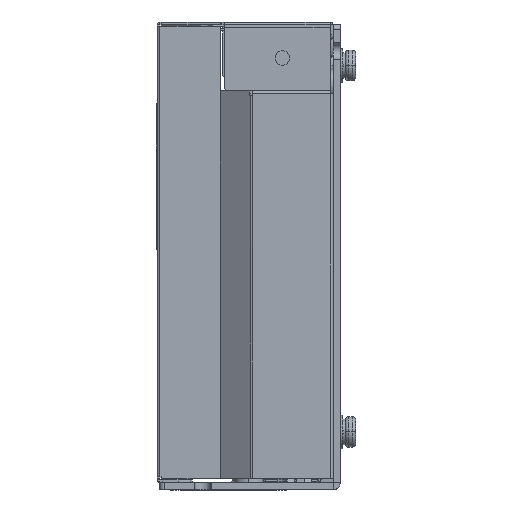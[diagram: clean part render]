
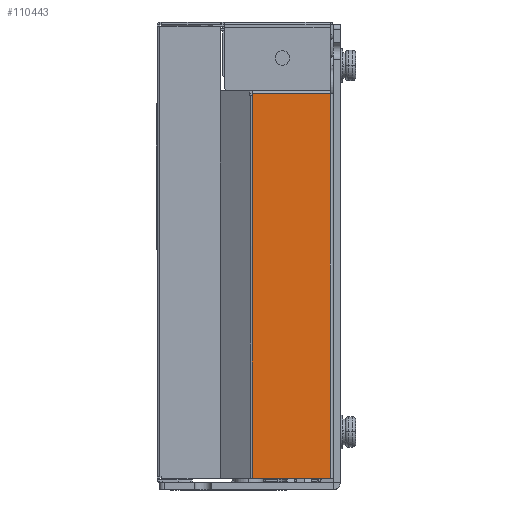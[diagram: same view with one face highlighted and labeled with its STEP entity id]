
A CAD part, left-side view. The second image highlights one B-rep face of the part: STEP entity #110443.
In plain terms, the highlighted planar face has unit normal (-1, 0, 0) as drawn and (1, 0, 0) by its records, which use the part's own axes.
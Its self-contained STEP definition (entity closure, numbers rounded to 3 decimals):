
#74568=DIRECTION('',(0.,0.,-1.));
#74569=VECTOR('',#74568,79.7);
#74570=CARTESIAN_POINT('',(80.,-35.9,-0.3));
#74571=LINE('',#74570,#74569);
#74940=DIRECTION('',(0.,0.,-1.));
#74941=VECTOR('',#74940,0.15);
#74942=CARTESIAN_POINT('',(80.,-19.724,
-79.85));
#74943=LINE('',#74942,#74941);
#74947=DIRECTION('',(0.,1.,0.));
#74948=VECTOR('',#74947,16.176);
#74949=CARTESIAN_POINT('',(80.,-35.9,-0.3));
#74950=LINE('',#74949,#74948);
#74961=DIRECTION('',(0.,1.,0.));
#74962=VECTOR('',#74961,16.176);
#74963=CARTESIAN_POINT('',(80.,-35.9,-80.));
#74964=LINE('',#74963,#74962);
#75254=DIRECTION('',(0.,0.,1.));
#75255=VECTOR('',#75254,79.55);
#75256=CARTESIAN_POINT('',(80.,-19.724,
-79.85));
#75257=LINE('',#75256,#75255);
#78745=CARTESIAN_POINT('',(80.,-19.724,-0.3));
#78746=VERTEX_POINT('',#78745);
#78761=CARTESIAN_POINT('',(80.,-19.724,-80.));
#78762=VERTEX_POINT('',#78761);
#78763=CARTESIAN_POINT('',(80.,-19.724,
-79.85));
#78764=VERTEX_POINT('',#78763);
#78777=CARTESIAN_POINT('',(80.,-35.9,-80.));
#78778=VERTEX_POINT('',#78777);
#78781=CARTESIAN_POINT('',(80.,-35.9,-0.3));
#78783=VERTEX_POINT('',#78781);
#110429=CARTESIAN_POINT('',(80.,-19.724,-94.));
#110430=DIRECTION('',(-1.,0.,0.));
#110431=DIRECTION('',(0.,-1.,0.));
#110432=AXIS2_PLACEMENT_3D('',#110429,#110430,#110431);
#110433=PLANE('',#110432);
#110434=ORIENTED_EDGE('',*,*,#110048,.T.);
#110436=ORIENTED_EDGE('',*,*,#110435,.F.);
#110437=ORIENTED_EDGE('',*,*,#110123,.F.);
#110438=ORIENTED_EDGE('',*,*,#110423,.T.);
#110440=ORIENTED_EDGE('',*,*,#110439,.F.);
#110441=EDGE_LOOP('',(#110434,#110436,#110437,#110438,#110440));
#110442=FACE_OUTER_BOUND('',#110441,.F.);
#110048=EDGE_CURVE('',#78764,#78762,#74943,.T.);
#110123=EDGE_CURVE('',#78783,#78778,#74571,.T.);
#110423=EDGE_CURVE('',#78783,#78746,#74950,.T.);
#110435=EDGE_CURVE('',#78778,#78762,#74964,.T.);
#110439=EDGE_CURVE('',#78764,#78746,#75257,.T.);
#110443=ADVANCED_FACE('',(#110442),#110433,.F.);
